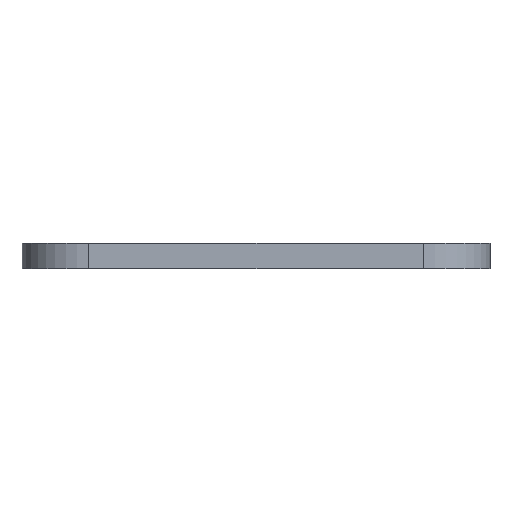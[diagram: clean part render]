
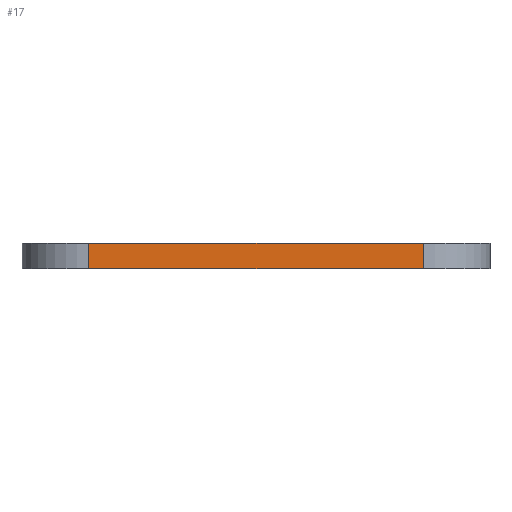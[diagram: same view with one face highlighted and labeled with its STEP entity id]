
A CAD part, left-side view. The second image highlights one B-rep face of the part: STEP entity #17.
In plain terms, the highlighted planar face has unit normal (-1, 0, 0).
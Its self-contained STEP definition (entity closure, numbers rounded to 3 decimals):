
#17 = ADVANCED_FACE('',(#18),#32,.F.);
#18 = FACE_BOUND('',#19,.F.);
#19 = EDGE_LOOP('',(#20,#55,#83,#111));
#20 = ORIENTED_EDGE('',*,*,#21,.F.);
#21 = EDGE_CURVE('',#22,#24,#26,.T.);
#22 = VERTEX_POINT('',#23);
#23 = CARTESIAN_POINT('',(-75.,-55.,8.4));
#24 = VERTEX_POINT('',#25);
#25 = CARTESIAN_POINT('',(-75.,55.,8.4));
#26 = SURFACE_CURVE('',#27,(#31,#43),.PCURVE_S1.);
#27 = LINE('',#28,#29);
#28 = CARTESIAN_POINT('',(-75.,-77.,8.4));
#29 = VECTOR('',#30,1.);
#30 = DIRECTION('',(0.,1.,0.));
#31 = PCURVE('',#32,#37);
#32 = PLANE('',#33);
#33 = AXIS2_PLACEMENT_3D('',#34,#35,#36);
#34 = CARTESIAN_POINT('',(-75.,-77.,0.));
#35 = DIRECTION('',(1.,0.,0.));
#36 = DIRECTION('',(0.,0.,1.));
#37 = DEFINITIONAL_REPRESENTATION('',(#38),#42);
#38 = LINE('',#39,#40);
#39 = CARTESIAN_POINT('',(8.4,0.));
#40 = VECTOR('',#41,1.);
#41 = DIRECTION('',(0.,-1.));
#42 = ( GEOMETRIC_REPRESENTATION_CONTEXT(2) 
PARAMETRIC_REPRESENTATION_CONTEXT() REPRESENTATION_CONTEXT('2D SPACE',''
  ) );
#43 = PCURVE('',#44,#49);
#44 = PLANE('',#45);
#45 = AXIS2_PLACEMENT_3D('',#46,#47,#48);
#46 = CARTESIAN_POINT('',(-75.,-77.,8.4));
#47 = DIRECTION('',(0.,0.,1.));
#48 = DIRECTION('',(1.,0.,0.));
#49 = DEFINITIONAL_REPRESENTATION('',(#50),#54);
#50 = LINE('',#51,#52);
#51 = CARTESIAN_POINT('',(0.,0.));
#52 = VECTOR('',#53,1.);
#53 = DIRECTION('',(0.,1.));
#54 = ( GEOMETRIC_REPRESENTATION_CONTEXT(2) 
PARAMETRIC_REPRESENTATION_CONTEXT() REPRESENTATION_CONTEXT('2D SPACE',''
  ) );
#55 = ORIENTED_EDGE('',*,*,#56,.F.);
#56 = EDGE_CURVE('',#57,#22,#59,.T.);
#57 = VERTEX_POINT('',#58);
#58 = CARTESIAN_POINT('',(-75.,-55.,0.));
#59 = SURFACE_CURVE('',#60,(#64,#71),.PCURVE_S1.);
#60 = LINE('',#61,#62);
#61 = CARTESIAN_POINT('',(-75.,-55.,0.));
#62 = VECTOR('',#63,1.);
#63 = DIRECTION('',(0.,0.,1.));
#64 = PCURVE('',#32,#65);
#65 = DEFINITIONAL_REPRESENTATION('',(#66),#70);
#66 = LINE('',#67,#68);
#67 = CARTESIAN_POINT('',(0.,-22.));
#68 = VECTOR('',#69,1.);
#69 = DIRECTION('',(1.,0.));
#70 = ( GEOMETRIC_REPRESENTATION_CONTEXT(2) 
PARAMETRIC_REPRESENTATION_CONTEXT() REPRESENTATION_CONTEXT('2D SPACE',''
  ) );
#71 = PCURVE('',#72,#77);
#72 = CYLINDRICAL_SURFACE('',#73,22.);
#73 = AXIS2_PLACEMENT_3D('',#74,#75,#76);
#74 = CARTESIAN_POINT('',(-53.,-55.,0.));
#75 = DIRECTION('',(0.,0.,1.));
#76 = DIRECTION('',(-1.,-0.,0.));
#77 = DEFINITIONAL_REPRESENTATION('',(#78),#82);
#78 = LINE('',#79,#80);
#79 = CARTESIAN_POINT('',(0.,0.));
#80 = VECTOR('',#81,1.);
#81 = DIRECTION('',(0.,1.));
#82 = ( GEOMETRIC_REPRESENTATION_CONTEXT(2) 
PARAMETRIC_REPRESENTATION_CONTEXT() REPRESENTATION_CONTEXT('2D SPACE',''
  ) );
#83 = ORIENTED_EDGE('',*,*,#84,.T.);
#84 = EDGE_CURVE('',#57,#85,#87,.T.);
#85 = VERTEX_POINT('',#86);
#86 = CARTESIAN_POINT('',(-75.,55.,0.));
#87 = SURFACE_CURVE('',#88,(#92,#99),.PCURVE_S1.);
#88 = LINE('',#89,#90);
#89 = CARTESIAN_POINT('',(-75.,-77.,0.));
#90 = VECTOR('',#91,1.);
#91 = DIRECTION('',(0.,1.,0.));
#92 = PCURVE('',#32,#93);
#93 = DEFINITIONAL_REPRESENTATION('',(#94),#98);
#94 = LINE('',#95,#96);
#95 = CARTESIAN_POINT('',(0.,0.));
#96 = VECTOR('',#97,1.);
#97 = DIRECTION('',(0.,-1.));
#98 = ( GEOMETRIC_REPRESENTATION_CONTEXT(2) 
PARAMETRIC_REPRESENTATION_CONTEXT() REPRESENTATION_CONTEXT('2D SPACE',''
  ) );
#99 = PCURVE('',#100,#105);
#100 = PLANE('',#101);
#101 = AXIS2_PLACEMENT_3D('',#102,#103,#104);
#102 = CARTESIAN_POINT('',(-75.,-77.,0.));
#103 = DIRECTION('',(0.,0.,1.));
#104 = DIRECTION('',(1.,0.,0.));
#105 = DEFINITIONAL_REPRESENTATION('',(#106),#110);
#106 = LINE('',#107,#108);
#107 = CARTESIAN_POINT('',(0.,0.));
#108 = VECTOR('',#109,1.);
#109 = DIRECTION('',(0.,1.));
#110 = ( GEOMETRIC_REPRESENTATION_CONTEXT(2) 
PARAMETRIC_REPRESENTATION_CONTEXT() REPRESENTATION_CONTEXT('2D SPACE',''
  ) );
#111 = ORIENTED_EDGE('',*,*,#112,.T.);
#112 = EDGE_CURVE('',#85,#24,#113,.T.);
#113 = SURFACE_CURVE('',#114,(#118,#125),.PCURVE_S1.);
#114 = LINE('',#115,#116);
#115 = CARTESIAN_POINT('',(-75.,55.,0.));
#116 = VECTOR('',#117,1.);
#117 = DIRECTION('',(0.,0.,1.));
#118 = PCURVE('',#32,#119);
#119 = DEFINITIONAL_REPRESENTATION('',(#120),#124);
#120 = LINE('',#121,#122);
#121 = CARTESIAN_POINT('',(0.,-132.));
#122 = VECTOR('',#123,1.);
#123 = DIRECTION('',(1.,0.));
#124 = ( GEOMETRIC_REPRESENTATION_CONTEXT(2) 
PARAMETRIC_REPRESENTATION_CONTEXT() REPRESENTATION_CONTEXT('2D SPACE',''
  ) );
#125 = PCURVE('',#126,#131);
#126 = CYLINDRICAL_SURFACE('',#127,22.);
#127 = AXIS2_PLACEMENT_3D('',#128,#129,#130);
#128 = CARTESIAN_POINT('',(-53.,55.,0.));
#129 = DIRECTION('',(0.,0.,1.));
#130 = DIRECTION('',(-1.,-0.,0.));
#131 = DEFINITIONAL_REPRESENTATION('',(#132),#136);
#132 = LINE('',#133,#134);
#133 = CARTESIAN_POINT('',(-0.,0.));
#134 = VECTOR('',#135,1.);
#135 = DIRECTION('',(-0.,1.));
#136 = ( GEOMETRIC_REPRESENTATION_CONTEXT(2) 
PARAMETRIC_REPRESENTATION_CONTEXT() REPRESENTATION_CONTEXT('2D SPACE',''
  ) );
